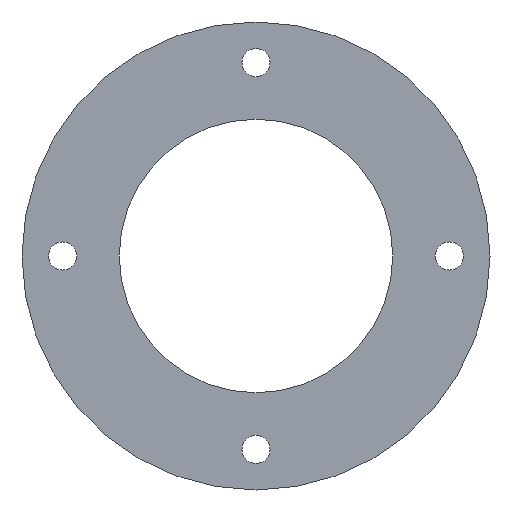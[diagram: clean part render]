
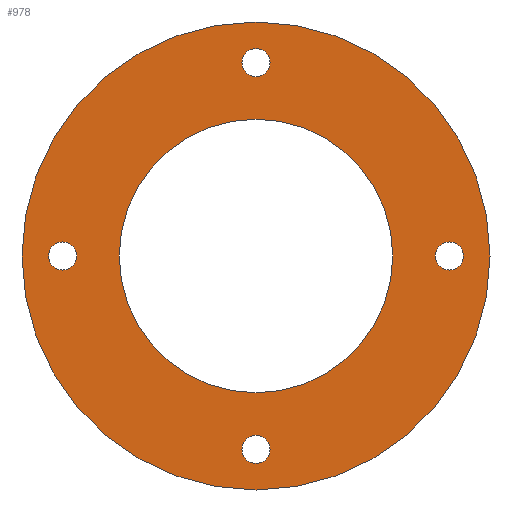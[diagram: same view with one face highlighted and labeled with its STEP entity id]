
A CAD part, front view. The second image highlights one B-rep face of the part: STEP entity #978.
In plain terms, the highlighted planar face has unit normal (0, -1, 0).
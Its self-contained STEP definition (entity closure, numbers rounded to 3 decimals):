
#18 = AXIS2_PLACEMENT_3D ( 'NONE', #1476, #792, #275 ) ;
#33 = VERTEX_POINT ( 'NONE', #361 ) ;
#41 = VERTEX_POINT ( 'NONE', #1323 ) ;
#61 = CARTESIAN_POINT ( 'NONE',  ( 29.698, -3.5, 0. ) ) ;
#89 = DIRECTION ( 'NONE',  ( 0., 1., 0. ) ) ;
#95 = FACE_BOUND ( 'NONE', #891, .T. ) ;
#150 = DIRECTION ( 'NONE',  ( 0., 1., 0. ) ) ;
#173 = AXIS2_PLACEMENT_3D ( 'NONE', #601, #2074, #1618 ) ;
#197 = DIRECTION ( 'NONE',  ( 0., 1., 0. ) ) ;
#218 = EDGE_CURVE ( 'NONE', #363, #689, #264, .T. ) ;
#264 = CIRCLE ( 'NONE', #2958, 2.15 ) ;
#275 = DIRECTION ( 'NONE',  ( 0., 0., -1. ) ) ;
#287 = FACE_BOUND ( 'NONE', #2587, .T. ) ;
#324 = CARTESIAN_POINT ( 'NONE',  ( 0., -3.5, -21. ) ) ;
#337 = DIRECTION ( 'NONE',  ( 0., 0., -1. ) ) ;
#361 = CARTESIAN_POINT ( 'NONE',  ( 0., -3.5, -31.848 ) ) ;
#363 = VERTEX_POINT ( 'NONE', #2775 ) ;
#364 = AXIS2_PLACEMENT_3D ( 'NONE', #2819, #1376, #1920 ) ;
#388 = CARTESIAN_POINT ( 'NONE',  ( 0., -3.5, -29.698 ) ) ;
#406 = EDGE_CURVE ( 'NONE', #41, #1391, #1458, .T. ) ;
#467 = ORIENTED_EDGE ( 'NONE', *, *, #2427, .T. ) ;
#480 = EDGE_CURVE ( 'NONE', #1745, #33, #1360, .T. ) ;
#489 = DIRECTION ( 'NONE',  ( 0., 0., 1. ) ) ;
#531 = EDGE_CURVE ( 'NONE', #1977, #2538, #1130, .T. ) ;
#542 = PLANE ( 'NONE',  #18 ) ;
#547 = EDGE_CURVE ( 'NONE', #771, #906, #2652, .T. ) ;
#567 = EDGE_LOOP ( 'NONE', ( #2812, #1675 ) ) ;
#569 = EDGE_CURVE ( 'NONE', #1391, #41, #982, .T. ) ;
#599 = CIRCLE ( 'NONE', #2301, 2.15 ) ;
#600 = DIRECTION ( 'NONE',  ( 0., 1., 0. ) ) ;
#601 = CARTESIAN_POINT ( 'NONE',  ( 29.698, -3.5, 0. ) ) ;
#674 = DIRECTION ( 'NONE',  ( 0., 0., 1. ) ) ;
#679 = VERTEX_POINT ( 'NONE', #751 ) ;
#689 = VERTEX_POINT ( 'NONE', #1757 ) ;
#720 = CARTESIAN_POINT ( 'NONE',  ( -29.698, -3.5, 2.15 ) ) ;
#751 = CARTESIAN_POINT ( 'NONE',  ( 29.698, -3.5, -2.15 ) ) ;
#771 = VERTEX_POINT ( 'NONE', #2079 ) ;
#781 = EDGE_LOOP ( 'NONE', ( #1579, #2373 ) ) ;
#789 = CIRCLE ( 'NONE', #1183, 2.15 ) ;
#792 = DIRECTION ( 'NONE',  ( 0., -1., 0. ) ) ;
#814 = VERTEX_POINT ( 'NONE', #1371 ) ;
#891 = EDGE_LOOP ( 'NONE', ( #1454, #2912 ) ) ;
#906 = VERTEX_POINT ( 'NONE', #1385 ) ;
#918 = EDGE_LOOP ( 'NONE', ( #1076, #467 ) ) ;
#978 = ADVANCED_FACE ( 'NONE', ( #1994, #2426, #95, #1502, #287, #2463 ), #542, .T. ) ;
#982 = CIRCLE ( 'NONE', #2190, 2.15 ) ;
#1076 = ORIENTED_EDGE ( 'NONE', *, *, #531, .T. ) ;
#1077 = CARTESIAN_POINT ( 'NONE',  ( -29.698, -3.5, 0. ) ) ;
#1130 = CIRCLE ( 'NONE', #1941, 21. ) ;
#1138 = DIRECTION ( 'NONE',  ( 0., 0., 1. ) ) ;
#1143 = DIRECTION ( 'NONE',  ( 0., 0., 1. ) ) ;
#1183 = AXIS2_PLACEMENT_3D ( 'NONE', #61, #89, #2200 ) ;
#1195 = AXIS2_PLACEMENT_3D ( 'NONE', #1077, #2090, #1143 ) ;
#1241 = DIRECTION ( 'NONE',  ( 0., 0., 1. ) ) ;
#1246 = AXIS2_PLACEMENT_3D ( 'NONE', #388, #150, #1138 ) ;
#1254 = EDGE_CURVE ( 'NONE', #689, #363, #2563, .T. ) ;
#1299 = CARTESIAN_POINT ( 'NONE',  ( 0., -3.5, -29.698 ) ) ;
#1323 = CARTESIAN_POINT ( 'NONE',  ( -29.698, -3.5, -2.15 ) ) ;
#1360 = CIRCLE ( 'NONE', #1246, 2.15 ) ;
#1363 = EDGE_CURVE ( 'NONE', #906, #771, #2105, .T. ) ;
#1371 = CARTESIAN_POINT ( 'NONE',  ( 29.698, -3.5, 2.15 ) ) ;
#1376 = DIRECTION ( 'NONE',  ( 0., 1., 0. ) ) ;
#1385 = CARTESIAN_POINT ( 'NONE',  ( 0., -3.5, 35.925 ) ) ;
#1391 = VERTEX_POINT ( 'NONE', #720 ) ;
#1402 = CARTESIAN_POINT ( 'NONE',  ( 0., -3.5, 0. ) ) ;
#1414 = CARTESIAN_POINT ( 'NONE',  ( 0., -3.5, 0. ) ) ;
#1417 = EDGE_CURVE ( 'NONE', #33, #1745, #599, .T. ) ;
#1454 = ORIENTED_EDGE ( 'NONE', *, *, #569, .T. ) ;
#1458 = CIRCLE ( 'NONE', #1195, 2.15 ) ;
#1476 = CARTESIAN_POINT ( 'NONE',  ( 0., -3.5, 0. ) ) ;
#1502 = FACE_OUTER_BOUND ( 'NONE', #567, .T. ) ;
#1521 = CIRCLE ( 'NONE', #173, 2.15 ) ;
#1579 = ORIENTED_EDGE ( 'NONE', *, *, #480, .T. ) ;
#1618 = DIRECTION ( 'NONE',  ( 0., 0., 1. ) ) ;
#1651 = CIRCLE ( 'NONE', #2294, 21. ) ;
#1675 = ORIENTED_EDGE ( 'NONE', *, *, #1363, .T. ) ;
#1681 = DIRECTION ( 'NONE',  ( 0., 1., 0. ) ) ;
#1745 = VERTEX_POINT ( 'NONE', #1829 ) ;
#1757 = CARTESIAN_POINT ( 'NONE',  ( 0., -3.5, 31.848 ) ) ;
#1827 = EDGE_LOOP ( 'NONE', ( #1913, #2554 ) ) ;
#1829 = CARTESIAN_POINT ( 'NONE',  ( 0., -3.5, -27.548 ) ) ;
#1835 = EDGE_CURVE ( 'NONE', #814, #679, #1521, .T. ) ;
#1889 = ORIENTED_EDGE ( 'NONE', *, *, #218, .T. ) ;
#1906 = AXIS2_PLACEMENT_3D ( 'NONE', #2960, #2893, #337 ) ;
#1913 = ORIENTED_EDGE ( 'NONE', *, *, #1835, .T. ) ;
#1920 = DIRECTION ( 'NONE',  ( 0., 0., 1. ) ) ;
#1941 = AXIS2_PLACEMENT_3D ( 'NONE', #2612, #1681, #2643 ) ;
#1977 = VERTEX_POINT ( 'NONE', #2589 ) ;
#1994 = FACE_BOUND ( 'NONE', #918, .T. ) ;
#2074 = DIRECTION ( 'NONE',  ( 0., 1., 0. ) ) ;
#2079 = CARTESIAN_POINT ( 'NONE',  ( 0., -3.5, -35.925 ) ) ;
#2090 = DIRECTION ( 'NONE',  ( 0., 1., 0. ) ) ;
#2104 = CARTESIAN_POINT ( 'NONE',  ( -29.698, -3.5, 0. ) ) ;
#2105 = CIRCLE ( 'NONE', #1906, 35.925 ) ;
#2190 = AXIS2_PLACEMENT_3D ( 'NONE', #2104, #3059, #489 ) ;
#2200 = DIRECTION ( 'NONE',  ( 0., 0., 1. ) ) ;
#2265 = DIRECTION ( 'NONE',  ( 0., 0., 1. ) ) ;
#2294 = AXIS2_PLACEMENT_3D ( 'NONE', #1414, #197, #674 ) ;
#2301 = AXIS2_PLACEMENT_3D ( 'NONE', #1299, #2977, #2265 ) ;
#2340 = AXIS2_PLACEMENT_3D ( 'NONE', #1402, #2368, #2892 ) ;
#2368 = DIRECTION ( 'NONE',  ( 0., -1., 0. ) ) ;
#2373 = ORIENTED_EDGE ( 'NONE', *, *, #1417, .T. ) ;
#2426 = FACE_BOUND ( 'NONE', #1827, .T. ) ;
#2427 = EDGE_CURVE ( 'NONE', #2538, #1977, #1651, .T. ) ;
#2463 = FACE_BOUND ( 'NONE', #781, .T. ) ;
#2538 = VERTEX_POINT ( 'NONE', #324 ) ;
#2548 = ORIENTED_EDGE ( 'NONE', *, *, #1254, .T. ) ;
#2554 = ORIENTED_EDGE ( 'NONE', *, *, #2751, .T. ) ;
#2563 = CIRCLE ( 'NONE', #364, 2.15 ) ;
#2587 = EDGE_LOOP ( 'NONE', ( #2548, #1889 ) ) ;
#2589 = CARTESIAN_POINT ( 'NONE',  ( 0., -3.5, 21. ) ) ;
#2612 = CARTESIAN_POINT ( 'NONE',  ( 0., -3.5, 0. ) ) ;
#2643 = DIRECTION ( 'NONE',  ( 0., 0., 1. ) ) ;
#2652 = CIRCLE ( 'NONE', #2340, 35.925 ) ;
#2751 = EDGE_CURVE ( 'NONE', #679, #814, #789, .T. ) ;
#2763 = CARTESIAN_POINT ( 'NONE',  ( 0., -3.5, 29.698 ) ) ;
#2775 = CARTESIAN_POINT ( 'NONE',  ( 0., -3.5, 27.548 ) ) ;
#2812 = ORIENTED_EDGE ( 'NONE', *, *, #547, .T. ) ;
#2819 = CARTESIAN_POINT ( 'NONE',  ( 0., -3.5, 29.698 ) ) ;
#2892 = DIRECTION ( 'NONE',  ( 0., 0., -1. ) ) ;
#2893 = DIRECTION ( 'NONE',  ( 0., -1., 0. ) ) ;
#2912 = ORIENTED_EDGE ( 'NONE', *, *, #406, .T. ) ;
#2958 = AXIS2_PLACEMENT_3D ( 'NONE', #2763, #600, #1241 ) ;
#2960 = CARTESIAN_POINT ( 'NONE',  ( 0., -3.5, 0. ) ) ;
#2977 = DIRECTION ( 'NONE',  ( 0., 1., 0. ) ) ;
#3059 = DIRECTION ( 'NONE',  ( 0., 1., 0. ) ) ;
